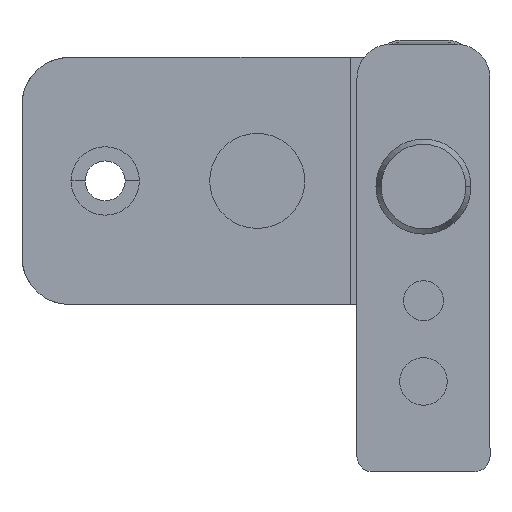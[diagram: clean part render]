
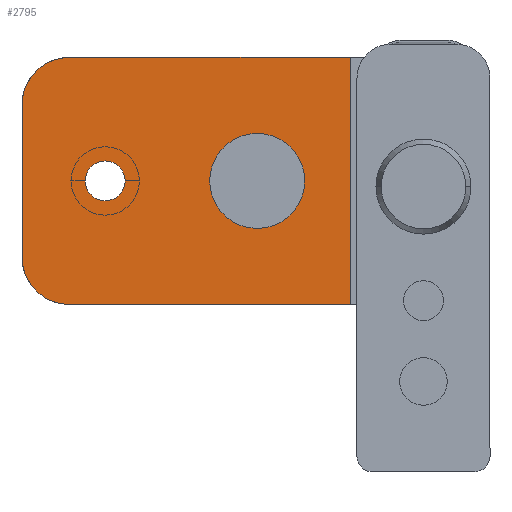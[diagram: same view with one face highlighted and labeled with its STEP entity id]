
A CAD part, front view. The second image highlights one B-rep face of the part: STEP entity #2795.
In plain terms, the highlighted planar face has unit normal (0, -1, 0).
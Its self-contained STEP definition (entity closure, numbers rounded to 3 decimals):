
#794 = VECTOR ( 'NONE', #3607, 1000. ) ;
#795 = LINE ( 'NONE', #3606, #794 ) ;
#940 = PLANE ( 'NONE',  #2077 ) ;
#942 = CARTESIAN_POINT ( 'NONE',  ( -42.25, 497., 13.6 ) ) ;
#943 = DIRECTION ( 'NONE',  ( 0., 1., 0. ) ) ;
#944 = DIRECTION ( 'NONE',  ( -1., 0., 0. ) ) ;
#993 = VERTEX_POINT ( 'NONE', #2466 ) ;
#994 = VERTEX_POINT ( 'NONE', #2467 ) ;
#1017 = VERTEX_POINT ( 'NONE', #2490 ) ;
#1131 = CARTESIAN_POINT ( 'NONE',  ( -33.5, 497., 0.6 ) ) ;
#1132 = DIRECTION ( 'NONE',  ( 0., 1., 0. ) ) ;
#1133 = DIRECTION ( 'NONE',  ( -1., 0., 0. ) ) ;
#1149 = CARTESIAN_POINT ( 'NONE',  ( -31.4, 497., 0.6 ) ) ;
#1352 = ORIENTED_EDGE ( 'NONE', *, *, #2436, .T. ) ;
#1353 = ORIENTED_EDGE ( 'NONE', *, *, #2430, .F. ) ;
#1354 = ORIENTED_EDGE ( 'NONE', *, *, #2435, .F. ) ;
#1355 = ORIENTED_EDGE ( 'NONE', *, *, #2434, .T. ) ;
#1384 = ORIENTED_EDGE ( 'NONE', *, *, #2425, .T. ) ;
#1385 = ORIENTED_EDGE ( 'NONE', *, *, #2405, .T. ) ;
#1425 = VERTEX_POINT ( 'NONE', #3590 ) ;
#1558 = ORIENTED_EDGE ( 'NONE', *, *, #4100, .T. ) ;
#1559 = ORIENTED_EDGE ( 'NONE', *, *, #2433, .T. ) ;
#1592 = CARTESIAN_POINT ( 'NONE',  ( -7.7, 497., -12.4 ) ) ;
#1608 = CARTESIAN_POINT ( 'NONE',  ( -7.7, 497., 13.6 ) ) ;
#1909 = CARTESIAN_POINT ( 'NONE',  ( -42.25, 497., 8.6 ) ) ;
#1998 = AXIS2_PLACEMENT_3D ( 'NONE', #3981, #3982, #3983 ) ;
#2000 = AXIS2_PLACEMENT_3D ( 'NONE', #3999, #4000, #4001 ) ;
#2001 = AXIS2_PLACEMENT_3D ( 'NONE', #4006, #4007, #4008 ) ;
#2077 = AXIS2_PLACEMENT_3D ( 'NONE', #942, #943, #944 ) ;
#2169 = AXIS2_PLACEMENT_3D ( 'NONE', #1131, #1132, #1133 ) ;
#2405 = EDGE_CURVE ( 'NONE', #3897, #994, #795, .T. ) ;
#2425 = EDGE_CURVE ( 'NONE', #994, #993, #2889, .T. ) ;
#2430 = EDGE_CURVE ( 'NONE', #1017, #3922, #2897, .T. ) ;
#2433 = EDGE_CURVE ( 'NONE', #1425, #4593, #2904, .T. ) ;
#2434 = EDGE_CURVE ( 'NONE', #993, #3906, #2903, .T. ) ;
#2435 = EDGE_CURVE ( 'NONE', #3922, #3906, #2906, .T. ) ;
#2436 = EDGE_CURVE ( 'NONE', #1017, #3897, #2909, .T. ) ;
#2466 = CARTESIAN_POINT ( 'NONE',  ( -37.25, 497., -12.4 ) ) ;
#2467 = CARTESIAN_POINT ( 'NONE',  ( -42.25, 497., -7.4 ) ) ;
#2490 = CARTESIAN_POINT ( 'NONE',  ( -37.25, 497., 13.6 ) ) ;
#2795 = ADVANCED_FACE ( 'NONE', ( #3062, #3063 ), #940, .F. ) ;
#2889 = CIRCLE ( 'NONE', #1998, 5. ) ;
#2897 = LINE ( 'NONE', #3993, #2898 ) ;
#2898 = VECTOR ( 'NONE', #3994, 1000. ) ;
#2903 = LINE ( 'NONE', #4002, #2905 ) ;
#2904 = CIRCLE ( 'NONE', #2000, 2.1 ) ;
#2905 = VECTOR ( 'NONE', #4003, 1000. ) ;
#2906 = LINE ( 'NONE', #4004, #2907 ) ;
#2907 = VECTOR ( 'NONE', #4005, 1000. ) ;
#2909 = CIRCLE ( 'NONE', #2001, 5. ) ;
#3062 = FACE_BOUND ( 'NONE', #4681, .T. ) ;
#3063 = FACE_OUTER_BOUND ( 'NONE', #4673, .T. ) ;
#3271 = CIRCLE ( 'NONE', #2169, 2.1 ) ;
#3590 = CARTESIAN_POINT ( 'NONE',  ( -35.6, 497., 0.6 ) ) ;
#3606 = CARTESIAN_POINT ( 'NONE',  ( -42.25, 497., 13.6 ) ) ;
#3607 = DIRECTION ( 'NONE',  ( 0., 0., -1. ) ) ;
#3897 = VERTEX_POINT ( 'NONE', #1909 ) ;
#3906 = VERTEX_POINT ( 'NONE', #1592 ) ;
#3922 = VERTEX_POINT ( 'NONE', #1608 ) ;
#3981 = CARTESIAN_POINT ( 'NONE',  ( -37.25, 497., -7.4 ) ) ;
#3982 = DIRECTION ( 'NONE',  ( 0., -1., 0. ) ) ;
#3983 = DIRECTION ( 'NONE',  ( -1., 0., 0. ) ) ;
#3993 = CARTESIAN_POINT ( 'NONE',  ( -42.25, 497., 13.6 ) ) ;
#3994 = DIRECTION ( 'NONE',  ( 1., 0., 0. ) ) ;
#3999 = CARTESIAN_POINT ( 'NONE',  ( -33.5, 497., 0.6 ) ) ;
#4000 = DIRECTION ( 'NONE',  ( 0., 1., 0. ) ) ;
#4001 = DIRECTION ( 'NONE',  ( -1., 0., 0. ) ) ;
#4002 = CARTESIAN_POINT ( 'NONE',  ( -42.25, 497., -12.4 ) ) ;
#4003 = DIRECTION ( 'NONE',  ( 1., 0., 0. ) ) ;
#4004 = CARTESIAN_POINT ( 'NONE',  ( -7.7, 497., 13.6 ) ) ;
#4005 = DIRECTION ( 'NONE',  ( 0., 0., -1. ) ) ;
#4006 = CARTESIAN_POINT ( 'NONE',  ( -37.25, 497., 8.6 ) ) ;
#4007 = DIRECTION ( 'NONE',  ( 0., -1., 0. ) ) ;
#4008 = DIRECTION ( 'NONE',  ( -1., 0., 0. ) ) ;
#4100 = EDGE_CURVE ( 'NONE', #4593, #1425, #3271, .T. ) ;
#4593 = VERTEX_POINT ( 'NONE', #1149 ) ;
#4673 = EDGE_LOOP ( 'NONE', ( #1385, #1384, #1355, #1354, #1353, #1352 ) ) ;
#4681 = EDGE_LOOP ( 'NONE', ( #1559, #1558 ) ) ;
